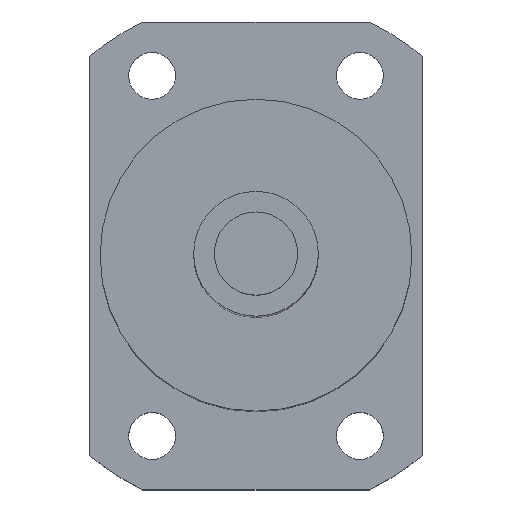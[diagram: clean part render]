
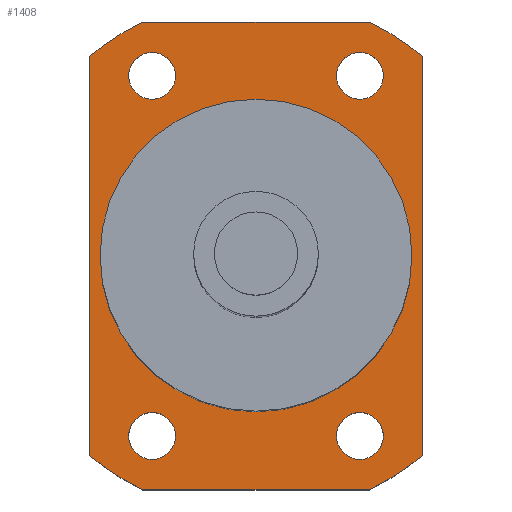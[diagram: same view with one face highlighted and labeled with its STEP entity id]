
A CAD part, top view. The second image highlights one B-rep face of the part: STEP entity #1408.
In plain terms, the highlighted planar face has unit normal (0, 0, 1).
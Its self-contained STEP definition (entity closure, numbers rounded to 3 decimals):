
#328=CARTESIAN_POINT('',(10.,17.321,150.));
#329=DIRECTION('',(0.,0.,-1.));
#330=DIRECTION('',(1.,0.,0.));
#331=AXIS2_PLACEMENT_3D('',#328,#329,#330);
#333=CARTESIAN_POINT('',(10.,17.321,150.));
#334=DIRECTION('',(0.,0.,-1.));
#335=DIRECTION('',(-1.,0.,0.));
#336=AXIS2_PLACEMENT_3D('',#333,#334,#335);
#338=CARTESIAN_POINT('',(-10.,17.321,150.));
#339=DIRECTION('',(0.,0.,-1.));
#340=DIRECTION('',(1.,0.,0.));
#341=AXIS2_PLACEMENT_3D('',#338,#339,#340);
#343=CARTESIAN_POINT('',(-10.,17.321,150.));
#344=DIRECTION('',(0.,0.,-1.));
#345=DIRECTION('',(-1.,0.,0.));
#346=AXIS2_PLACEMENT_3D('',#343,#344,#345);
#348=CARTESIAN_POINT('',(10.,-17.321,150.));
#349=DIRECTION('',(0.,0.,-1.));
#350=DIRECTION('',(1.,0.,0.));
#351=AXIS2_PLACEMENT_3D('',#348,#349,#350);
#353=CARTESIAN_POINT('',(10.,-17.321,150.));
#354=DIRECTION('',(0.,0.,-1.));
#355=DIRECTION('',(-1.,0.,0.));
#356=AXIS2_PLACEMENT_3D('',#353,#354,#355);
#358=CARTESIAN_POINT('',(-10.,-17.321,150.));
#359=DIRECTION('',(0.,0.,-1.));
#360=DIRECTION('',(1.,0.,0.));
#361=AXIS2_PLACEMENT_3D('',#358,#359,#360);
#363=CARTESIAN_POINT('',(-10.,-17.321,150.));
#364=DIRECTION('',(0.,0.,-1.));
#365=DIRECTION('',(-1.,0.,0.));
#366=AXIS2_PLACEMENT_3D('',#363,#364,#365);
#368=CARTESIAN_POINT('',(0.,0.,150.));
#369=DIRECTION('',(0.,0.,1.));
#370=DIRECTION('',(1.,0.,0.));
#371=AXIS2_PLACEMENT_3D('',#368,#369,#370);
#373=CARTESIAN_POINT('',(0.,0.,150.));
#374=DIRECTION('',(0.,0.,1.));
#375=DIRECTION('',(-1.,0.,0.));
#376=AXIS2_PLACEMENT_3D('',#373,#374,#375);
#378=DIRECTION('',(1.,0.,0.));
#379=VECTOR('',#378,21.794);
#380=CARTESIAN_POINT('',(-10.897,22.5,150.));
#381=LINE('',#380,#379);
#382=CARTESIAN_POINT('',(0.,0.,150.));
#383=DIRECTION('',(0.,0.,1.));
#384=DIRECTION('',(0.64,0.768,0.));
#385=AXIS2_PLACEMENT_3D('',#382,#383,#384);
#387=DIRECTION('',(0.,1.,0.));
#388=VECTOR('',#387,38.419);
#389=CARTESIAN_POINT('',(16.,-19.209,150.));
#390=LINE('',#389,#388);
#391=CARTESIAN_POINT('',(0.,0.,150.));
#392=DIRECTION('',(0.,0.,1.));
#393=DIRECTION('',(0.436,-0.9,0.));
#394=AXIS2_PLACEMENT_3D('',#391,#392,#393);
#396=DIRECTION('',(1.,0.,0.));
#397=VECTOR('',#396,21.794);
#398=CARTESIAN_POINT('',(-10.897,-22.5,150.));
#399=LINE('',#398,#397);
#400=CARTESIAN_POINT('',(0.,0.,150.));
#401=DIRECTION('',(0.,0.,1.));
#402=DIRECTION('',(-0.64,-0.768,0.));
#403=AXIS2_PLACEMENT_3D('',#400,#401,#402);
#405=DIRECTION('',(0.,-1.,0.));
#406=VECTOR('',#405,38.419);
#407=CARTESIAN_POINT('',(-16.,19.209,150.));
#408=LINE('',#407,#406);
#409=CARTESIAN_POINT('',(0.,0.,150.));
#410=DIRECTION('',(0.,0.,1.));
#411=DIRECTION('',(-0.436,0.9,0.));
#412=AXIS2_PLACEMENT_3D('',#409,#410,#411);
#721=CARTESIAN_POINT('',(12.25,17.321,150.));
#722=CARTESIAN_POINT('',(7.75,17.321,150.));
#723=VERTEX_POINT('',#721);
#724=VERTEX_POINT('',#722);
#725=CARTESIAN_POINT('',(-7.75,17.321,150.));
#726=CARTESIAN_POINT('',(-12.25,17.321,150.));
#727=VERTEX_POINT('',#725);
#728=VERTEX_POINT('',#726);
#729=CARTESIAN_POINT('',(12.25,-17.321,150.));
#730=CARTESIAN_POINT('',(7.75,-17.321,150.));
#731=VERTEX_POINT('',#729);
#732=VERTEX_POINT('',#730);
#733=CARTESIAN_POINT('',(-7.75,-17.321,150.));
#734=CARTESIAN_POINT('',(-12.25,-17.321,150.));
#735=VERTEX_POINT('',#733);
#736=VERTEX_POINT('',#734);
#737=CARTESIAN_POINT('',(-16.,19.209,150.));
#738=CARTESIAN_POINT('',(-16.,-19.209,150.));
#739=VERTEX_POINT('',#737);
#740=VERTEX_POINT('',#738);
#741=CARTESIAN_POINT('',(16.,-19.209,150.));
#742=CARTESIAN_POINT('',(16.,19.209,150.));
#743=VERTEX_POINT('',#741);
#744=VERTEX_POINT('',#742);
#753=CARTESIAN_POINT('',(15.,0.,150.));
#754=CARTESIAN_POINT('',(-15.,0.,150.));
#755=VERTEX_POINT('',#753);
#756=VERTEX_POINT('',#754);
#829=CARTESIAN_POINT('',(-10.897,22.5,150.));
#830=CARTESIAN_POINT('',(10.897,22.5,150.));
#831=VERTEX_POINT('',#829);
#832=VERTEX_POINT('',#830);
#833=CARTESIAN_POINT('',(-10.897,-22.5,150.));
#834=CARTESIAN_POINT('',(10.897,-22.5,150.));
#835=VERTEX_POINT('',#833);
#836=VERTEX_POINT('',#834);
#1357=CARTESIAN_POINT('',(0.,0.,150.));
#1358=DIRECTION('',(0.,0.,1.));
#1359=DIRECTION('',(1.,0.,0.));
#1360=AXIS2_PLACEMENT_3D('',#1357,#1358,#1359);
#1361=PLANE('',#1360);
#1363=ORIENTED_EDGE('',*,*,#1362,.T.);
#1365=ORIENTED_EDGE('',*,*,#1364,.F.);
#1367=ORIENTED_EDGE('',*,*,#1366,.F.);
#1369=ORIENTED_EDGE('',*,*,#1368,.F.);
#1371=ORIENTED_EDGE('',*,*,#1370,.F.);
#1373=ORIENTED_EDGE('',*,*,#1372,.F.);
#1375=ORIENTED_EDGE('',*,*,#1374,.F.);
#1377=ORIENTED_EDGE('',*,*,#1376,.F.);
#1378=EDGE_LOOP('',(#1363,#1365,#1367,#1369,#1371,#1373,#1375,#1377));
#1379=FACE_OUTER_BOUND('',#1378,.F.);
#1380=ORIENTED_EDGE('',*,*,#1337,.F.);
#1381=ORIENTED_EDGE('',*,*,#1351,.F.);
#1382=EDGE_LOOP('',(#1380,#1381));
#1383=FACE_BOUND('',#1382,.F.);
#1385=ORIENTED_EDGE('',*,*,#1384,.F.);
#1387=ORIENTED_EDGE('',*,*,#1386,.F.);
#1388=EDGE_LOOP('',(#1385,#1387));
#1389=FACE_BOUND('',#1388,.F.);
#1391=ORIENTED_EDGE('',*,*,#1390,.F.);
#1393=ORIENTED_EDGE('',*,*,#1392,.F.);
#1394=EDGE_LOOP('',(#1391,#1393));
#1395=FACE_BOUND('',#1394,.F.);
#1397=ORIENTED_EDGE('',*,*,#1396,.F.);
#1399=ORIENTED_EDGE('',*,*,#1398,.F.);
#1400=EDGE_LOOP('',(#1397,#1399));
#1401=FACE_BOUND('',#1400,.F.);
#1403=ORIENTED_EDGE('',*,*,#1402,.T.);
#1405=ORIENTED_EDGE('',*,*,#1404,.T.);
#1406=EDGE_LOOP('',(#1403,#1405));
#1407=FACE_BOUND('',#1406,.F.);
#1408=ADVANCED_FACE('',(#1379,#1383,#1389,#1395,#1401,#1407),#1361,.T.);
#332=CIRCLE('',#331,2.25);
#337=CIRCLE('',#336,2.25);
#342=CIRCLE('',#341,2.25);
#347=CIRCLE('',#346,2.25);
#352=CIRCLE('',#351,2.25);
#357=CIRCLE('',#356,2.25);
#362=CIRCLE('',#361,2.25);
#367=CIRCLE('',#366,2.25);
#372=CIRCLE('',#371,15.);
#377=CIRCLE('',#376,15.);
#386=CIRCLE('',#385,25.);
#395=CIRCLE('',#394,25.);
#404=CIRCLE('',#403,25.);
#413=CIRCLE('',#412,25.);
#1337=EDGE_CURVE('',#723,#724,#332,.T.);
#1351=EDGE_CURVE('',#724,#723,#337,.T.);
#1362=EDGE_CURVE('',#831,#832,#381,.T.);
#1364=EDGE_CURVE('',#744,#832,#386,.T.);
#1366=EDGE_CURVE('',#743,#744,#390,.T.);
#1368=EDGE_CURVE('',#836,#743,#395,.T.);
#1370=EDGE_CURVE('',#835,#836,#399,.T.);
#1372=EDGE_CURVE('',#740,#835,#404,.T.);
#1374=EDGE_CURVE('',#739,#740,#408,.T.);
#1376=EDGE_CURVE('',#831,#739,#413,.T.);
#1384=EDGE_CURVE('',#727,#728,#342,.T.);
#1386=EDGE_CURVE('',#728,#727,#347,.T.);
#1390=EDGE_CURVE('',#731,#732,#352,.T.);
#1392=EDGE_CURVE('',#732,#731,#357,.T.);
#1396=EDGE_CURVE('',#735,#736,#362,.T.);
#1398=EDGE_CURVE('',#736,#735,#367,.T.);
#1402=EDGE_CURVE('',#755,#756,#372,.T.);
#1404=EDGE_CURVE('',#756,#755,#377,.T.);
